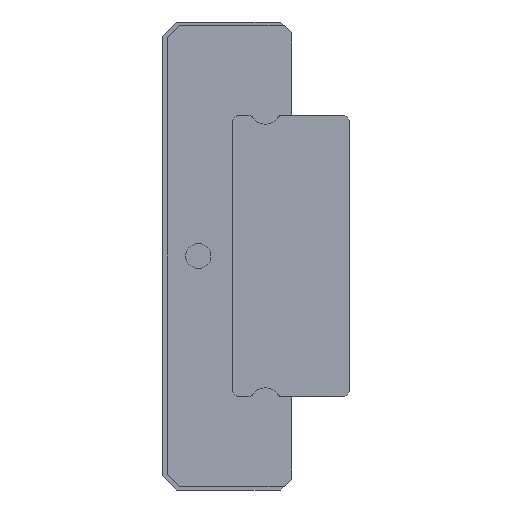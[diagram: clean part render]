
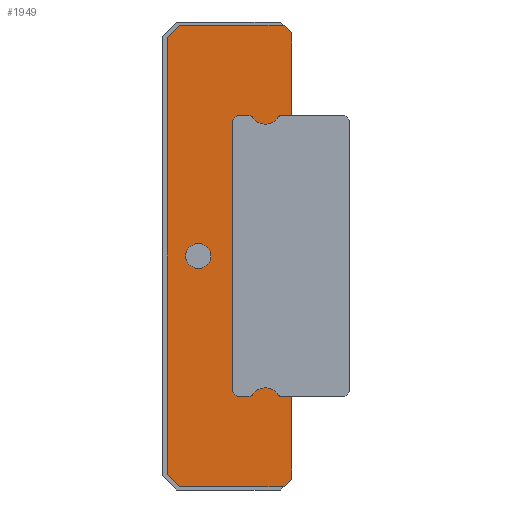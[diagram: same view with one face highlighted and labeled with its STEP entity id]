
A CAD part, left-side view. The second image highlights one B-rep face of the part: STEP entity #1949.
In plain terms, the highlighted planar face has unit normal (-1, 0, 0).
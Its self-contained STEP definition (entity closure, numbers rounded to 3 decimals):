
#81=CIRCLE('',#2131,0.8);
#82=CIRCLE('',#2132,0.15);
#83=CIRCLE('',#2133,1.);
#84=CIRCLE('',#2134,0.15);
#85=CIRCLE('',#2135,0.15);
#86=CIRCLE('',#2136,1.);
#87=CIRCLE('',#2137,0.15);
#309=ORIENTED_EDGE('',*,*,#767,.T.);
#310=ORIENTED_EDGE('',*,*,#768,.T.);
#311=ORIENTED_EDGE('',*,*,#735,.F.);
#312=ORIENTED_EDGE('',*,*,#769,.F.);
#313=ORIENTED_EDGE('',*,*,#770,.F.);
#314=ORIENTED_EDGE('',*,*,#771,.F.);
#315=ORIENTED_EDGE('',*,*,#772,.F.);
#316=ORIENTED_EDGE('',*,*,#773,.F.);
#317=ORIENTED_EDGE('',*,*,#774,.F.);
#318=ORIENTED_EDGE('',*,*,#775,.F.);
#319=ORIENTED_EDGE('',*,*,#737,.F.);
#320=ORIENTED_EDGE('',*,*,#776,.F.);
#321=ORIENTED_EDGE('',*,*,#777,.T.);
#322=ORIENTED_EDGE('',*,*,#778,.F.);
#323=ORIENTED_EDGE('',*,*,#779,.T.);
#324=ORIENTED_EDGE('',*,*,#780,.T.);
#325=ORIENTED_EDGE('',*,*,#781,.T.);
#326=ORIENTED_EDGE('',*,*,#782,.T.);
#327=ORIENTED_EDGE('',*,*,#783,.T.);
#328=ORIENTED_EDGE('',*,*,#784,.T.);
#329=ORIENTED_EDGE('',*,*,#785,.T.);
#330=ORIENTED_EDGE('',*,*,#786,.F.);
#331=ORIENTED_EDGE('',*,*,#787,.T.);
#735=EDGE_CURVE('',#983,#975,#1155,.T.);
#737=EDGE_CURVE('',#984,#986,#1157,.T.);
#767=EDGE_CURVE('',#1013,#1013,#81,.T.);
#768=EDGE_CURVE('',#1014,#975,#1180,.T.);
#769=EDGE_CURVE('',#1015,#983,#1181,.T.);
#770=EDGE_CURVE('',#1016,#1015,#1182,.T.);
#771=EDGE_CURVE('',#1017,#1016,#1183,.T.);
#772=EDGE_CURVE('',#1018,#1017,#1184,.T.);
#773=EDGE_CURVE('',#1019,#1018,#1185,.T.);
#774=EDGE_CURVE('',#1020,#1019,#1186,.T.);
#775=EDGE_CURVE('',#986,#1020,#1187,.T.);
#776=EDGE_CURVE('',#1021,#984,#1188,.T.);
#777=EDGE_CURVE('',#1021,#1022,#82,.T.);
#778=EDGE_CURVE('',#1023,#1022,#83,.T.);
#779=EDGE_CURVE('',#1023,#1024,#84,.T.);
#780=EDGE_CURVE('',#1024,#1025,#1189,.T.);
#781=EDGE_CURVE('',#1025,#1026,#1190,.T.);
#782=EDGE_CURVE('',#1026,#1027,#1191,.T.);
#783=EDGE_CURVE('',#1027,#1028,#1192,.T.);
#784=EDGE_CURVE('',#1028,#1029,#1193,.T.);
#785=EDGE_CURVE('',#1029,#1030,#85,.T.);
#786=EDGE_CURVE('',#1031,#1030,#86,.T.);
#787=EDGE_CURVE('',#1031,#1014,#87,.T.);
#975=VERTEX_POINT('',#2949);
#983=VERTEX_POINT('',#2965);
#984=VERTEX_POINT('',#2969);
#986=VERTEX_POINT('',#2972);
#1013=VERTEX_POINT('',#3031);
#1014=VERTEX_POINT('',#3033);
#1015=VERTEX_POINT('',#3035);
#1016=VERTEX_POINT('',#3037);
#1017=VERTEX_POINT('',#3039);
#1018=VERTEX_POINT('',#3041);
#1019=VERTEX_POINT('',#3043);
#1020=VERTEX_POINT('',#3045);
#1021=VERTEX_POINT('',#3048);
#1022=VERTEX_POINT('',#3050);
#1023=VERTEX_POINT('',#3052);
#1024=VERTEX_POINT('',#3054);
#1025=VERTEX_POINT('',#3056);
#1026=VERTEX_POINT('',#3058);
#1027=VERTEX_POINT('',#3060);
#1028=VERTEX_POINT('',#3062);
#1029=VERTEX_POINT('',#3064);
#1030=VERTEX_POINT('',#3066);
#1031=VERTEX_POINT('',#3068);
#1155=LINE('',#2966,#1359);
#1157=LINE('',#2971,#1361);
#1180=LINE('',#3032,#1384);
#1181=LINE('',#3034,#1385);
#1182=LINE('',#3036,#1386);
#1183=LINE('',#3038,#1387);
#1184=LINE('',#3040,#1388);
#1185=LINE('',#3042,#1389);
#1186=LINE('',#3044,#1390);
#1187=LINE('',#3046,#1391);
#1188=LINE('',#3047,#1392);
#1189=LINE('',#3055,#1393);
#1190=LINE('',#3057,#1394);
#1191=LINE('',#3059,#1395);
#1192=LINE('',#3061,#1396);
#1193=LINE('',#3063,#1397);
#1359=VECTOR('',#2412,1000.);
#1361=VECTOR('',#2416,1000.);
#1384=VECTOR('',#2459,1000.);
#1385=VECTOR('',#2460,1000.);
#1386=VECTOR('',#2461,1000.);
#1387=VECTOR('',#2462,1000.);
#1388=VECTOR('',#2463,1000.);
#1389=VECTOR('',#2464,1000.);
#1390=VECTOR('',#2465,1000.);
#1391=VECTOR('',#2466,1000.);
#1392=VECTOR('',#2467,1000.);
#1393=VECTOR('',#2474,1000.);
#1394=VECTOR('',#2475,1000.);
#1395=VECTOR('',#2476,1000.);
#1396=VECTOR('',#2477,1000.);
#1397=VECTOR('',#2478,1000.);
#1580=EDGE_LOOP('',(#309));
#1581=EDGE_LOOP('',(#310,#311,#312,#313,#314,#315,#316,#317,#318,#319,#320,
#321,#322,#323,#324,#325,#326,#327,#328,#329,#330,#331));
#1736=FACE_BOUND('',#1580,.T.);
#1737=FACE_BOUND('',#1581,.T.);
#1854=PLANE('',#2130);
#1949=ADVANCED_FACE('',(#1736,#1737),#1854,.F.);
#2130=AXIS2_PLACEMENT_3D('',#3029,#2455,#2456);
#2131=AXIS2_PLACEMENT_3D('',#3030,#2457,#2458);
#2132=AXIS2_PLACEMENT_3D('',#3049,#2468,#2469);
#2133=AXIS2_PLACEMENT_3D('',#3051,#2470,#2471);
#2134=AXIS2_PLACEMENT_3D('',#3053,#2472,#2473);
#2135=AXIS2_PLACEMENT_3D('',#3065,#2479,#2480);
#2136=AXIS2_PLACEMENT_3D('',#3067,#2481,#2482);
#2137=AXIS2_PLACEMENT_3D('',#3069,#2483,#2484);
#2412=DIRECTION('',(0.,0.,-1.));
#2416=DIRECTION('',(0.,0.,-1.));
#2455=DIRECTION('',(1.,0.,0.));
#2456=DIRECTION('',(0.,0.,-1.));
#2457=DIRECTION('',(1.,0.,0.));
#2458=DIRECTION('',(0.,0.,-1.));
#2459=DIRECTION('',(0.,-1.,0.));
#2460=DIRECTION('',(0.,-0.707,-0.707));
#2461=DIRECTION('',(0.,-1.,0.));
#2462=DIRECTION('',(0.,-0.707,0.707));
#2463=DIRECTION('',(0.,0.,1.));
#2464=DIRECTION('',(0.,0.707,0.707));
#2465=DIRECTION('',(0.,1.,0.));
#2466=DIRECTION('',(0.,0.707,-0.707));
#2467=DIRECTION('',(0.,-1.,0.));
#2468=DIRECTION('',(1.,0.,0.));
#2469=DIRECTION('',(0.,0.,-1.));
#2470=DIRECTION('',(1.,0.,0.));
#2471=DIRECTION('',(0.,0.,-1.));
#2472=DIRECTION('',(1.,0.,0.));
#2473=DIRECTION('',(0.,0.,-1.));
#2474=DIRECTION('',(0.,1.,0.));
#2475=DIRECTION('',(0.,0.707,0.707));
#2476=DIRECTION('',(0.,0.,1.));
#2477=DIRECTION('',(0.,-0.707,0.707));
#2478=DIRECTION('',(0.,-1.,0.));
#2479=DIRECTION('',(1.,0.,0.));
#2480=DIRECTION('',(0.,0.,-1.));
#2481=DIRECTION('',(1.,0.,0.));
#2482=DIRECTION('',(0.,0.,-1.));
#2483=DIRECTION('',(1.,0.,0.));
#2484=DIRECTION('',(0.,0.,-1.));
#2949=CARTESIAN_POINT('',(-19.5,0.,9.));
#2965=CARTESIAN_POINT('',(-19.5,0.,14.3));
#2966=CARTESIAN_POINT('',(-19.5,0.,14.3));
#2969=CARTESIAN_POINT('',(-19.5,0.,-9.));
#2971=CARTESIAN_POINT('',(-19.5,0.,14.3));
#2972=CARTESIAN_POINT('',(-19.5,0.,-14.3));
#3029=CARTESIAN_POINT('',(-19.5,0.,0.));
#3030=CARTESIAN_POINT('',(-19.5,6.,0.));
#3031=CARTESIAN_POINT('',(-19.5,6.,-0.8));
#3032=CARTESIAN_POINT('',(-19.5,0.719,9.));
#3033=CARTESIAN_POINT('',(-19.5,0.719,9.));
#3034=CARTESIAN_POINT('',(-19.5,0.5,14.8));
#3035=CARTESIAN_POINT('',(-19.5,0.5,14.8));
#3036=CARTESIAN_POINT('',(-19.5,7.2,14.8));
#3037=CARTESIAN_POINT('',(-19.5,7.2,14.8));
#3038=CARTESIAN_POINT('',(-19.5,8.,14.));
#3039=CARTESIAN_POINT('',(-19.5,8.,14.));
#3040=CARTESIAN_POINT('',(-19.5,8.,-14.));
#3041=CARTESIAN_POINT('',(-19.5,8.,-14.));
#3042=CARTESIAN_POINT('',(-19.5,7.2,-14.8));
#3043=CARTESIAN_POINT('',(-19.5,7.2,-14.8));
#3044=CARTESIAN_POINT('',(-19.5,0.5,-14.8));
#3045=CARTESIAN_POINT('',(-19.5,0.5,-14.8));
#3046=CARTESIAN_POINT('',(-19.5,0.,-14.3));
#3047=CARTESIAN_POINT('',(-19.5,0.,-9.));
#3048=CARTESIAN_POINT('',(-19.5,0.719,-9.));
#3049=CARTESIAN_POINT('',(-19.5,0.719,-8.85));
#3050=CARTESIAN_POINT('',(-19.5,0.847,-8.928));
#3051=CARTESIAN_POINT('',(-19.5,1.7,-9.45));
#3052=CARTESIAN_POINT('',(-19.5,2.553,-8.928));
#3053=CARTESIAN_POINT('',(-19.5,2.681,-8.85));
#3054=CARTESIAN_POINT('',(-19.5,2.681,-9.));
#3055=CARTESIAN_POINT('',(-19.5,2.681,-9.));
#3056=CARTESIAN_POINT('',(-19.5,3.5,-9.));
#3057=CARTESIAN_POINT('',(-19.5,3.5,-9.));
#3058=CARTESIAN_POINT('',(-19.5,3.8,-8.7));
#3059=CARTESIAN_POINT('',(-19.5,3.8,-8.7));
#3060=CARTESIAN_POINT('',(-19.5,3.8,8.7));
#3061=CARTESIAN_POINT('',(-19.5,3.8,8.7));
#3062=CARTESIAN_POINT('',(-19.5,3.5,9.));
#3063=CARTESIAN_POINT('',(-19.5,3.5,9.));
#3064=CARTESIAN_POINT('',(-19.5,2.681,9.));
#3065=CARTESIAN_POINT('',(-19.5,2.681,8.85));
#3066=CARTESIAN_POINT('',(-19.5,2.553,8.928));
#3067=CARTESIAN_POINT('',(-19.5,1.7,9.45));
#3068=CARTESIAN_POINT('',(-19.5,0.847,8.928));
#3069=CARTESIAN_POINT('',(-19.5,0.719,8.85));
